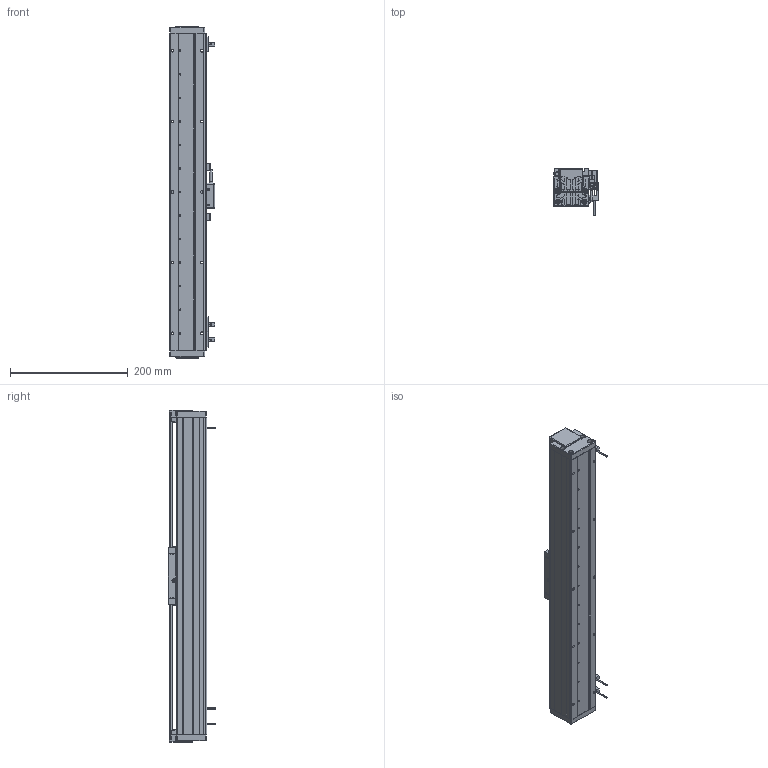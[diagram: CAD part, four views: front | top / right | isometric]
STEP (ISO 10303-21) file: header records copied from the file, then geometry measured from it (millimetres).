
FILE_DESCRIPTION (( 'STEP AP203' ), '1' );
FILE_NAME ('DA-A60-B1-T400-C010-0.2 眻盄萇儂.STEP', '2025-08-13T01:55:48', ( '' ), ( '' ), 'SwSTEP 2.0', 'SolidWorks 2019', '' );
FILE_SCHEMA (( 'CONFIG_CONTROL_DESIGN' ));
Length unit declared in the file: millimetre
Products named in the file (21): 复件 DA60-DMT-DTJ-00 读数头支架^DA-A60-B1-T-C010-0.2-N 直线电机; 复件 DA60-DG-H-N-00 端盖^DA-A60-B1-T-C010-0.2-N 直线电机; 复件 XD-U-02  磁栅尺^DA-A60-B1-T-C010-0.2-N 直线电机; DA60-T-002-00  裔啣; 葩璃 AKM01-W030-TRL^DA-A60-B1-T-C010-0.2-N 眻盄萇儂; 复件 DA60-B1-GT-00 滑块钢轨^DA60-YT-B1-HT-B-01 一体化滑动台板; DA-A60-B1-T400-C010-0.2 眻盄萇儂; AU60-V 幗紩賑怢; AU60-L 菁釱絳寢; DA60-YT-B1-HT-B-01 珨极趙賑雄怢啣; 复件 六角薄螺母 M3^DA-A60-B1-T-C010-0.2-N 直线电机(GB_FASTENER_NUT_STNAB M3-C); 复件 DA60-XJ-00 橡胶挡块^DA-A60-B1-T-C010-0.2-N 直线电机; 复件 纯铜油杯 6x6mm^AU60-V 滚珠滑台; 葩璃 PM-T45^DA-A60-B1-T-C010-0.2-N 眻盄萇儂; 复件 DA60-GT-T-00 底座钢轨^AU60-L 底座导轨; 复件 DA-A60-GYP-DMT-00 光电感应片^DA-A60-B1-T-C010-0.2-N 直线电机(默认); 葩璃 DMT-010 1米m 0.2M^DA-A60-B1-T-C010-0.2-N 眻盄萇儂; 复件 BAKM01-W030-C1-TP-0.2 直线电机动子^DA-A60-B1-T-C010-0.2-N 直线电机; IU-AU60-L-00 菁釱(540); 葩璃 DA60-HK-DP-01 結え^AU60-V 幗紩賑怢; DA60-B1-HT-B-03 賑雄怢啣
Assembly tree (33 placements, depth 4):
  DA-A60-B1-T400-C010-0.2 眻盄萇儂
    AU60-L 菁釱絳寢
      IU-AU60-L-00 菁釱(540)
      复件 DA60-GT-T-00 底座钢轨^AU60-L 底座导轨  x2
    AU60-V 幗紩賑怢
      DA60-YT-B1-HT-B-01 珨极趙賑雄怢啣
        DA60-B1-HT-B-03 賑雄怢啣
        复件 DA60-B1-GT-00 滑块钢轨^DA60-YT-B1-HT-B-01 一体化滑动台板  x2
      葩璃 DA60-HK-DP-01 結え^AU60-V 幗紩賑怢  x2
      复件 纯铜油杯 6x6mm^AU60-V 滚珠滑台
    复件 DA-A60-GYP-DMT-00 光电感应片^DA-A60-B1-T-C010-0.2-N 直线电机(默认)  x2
    复件 DA60-DMT-DTJ-00 读数头支架^DA-A60-B1-T-C010-0.2-N 直线电机
    葩璃 DMT-010 1米m 0.2M^DA-A60-B1-T-C010-0.2-N 眻盄萇儂
    复件 BAKM01-W030-C1-TP-0.2 直线电机动子^DA-A60-B1-T-C010-0.2-N 直线电机
    复件 DA60-XJ-00 橡胶挡块^DA-A60-B1-T-C010-0.2-N 直线电机  x2
    复件 DA60-DG-H-N-00 端盖^DA-A60-B1-T-C010-0.2-N 直线电机  x2
    DA60-T-002-00  裔啣
    葩璃 AKM01-W030-TRL^DA-A60-B1-T-C010-0.2-N 眻盄萇儂
    葩璃 PM-T45^DA-A60-B1-T-C010-0.2-N 眻盄萇儂  x3
    复件 XD-U-02  磁栅尺^DA-A60-B1-T-C010-0.2-N 直线电机
    复件 六角薄螺母 M3^DA-A60-B1-T-C010-0.2-N 直线电机(GB_FASTENER_NUT_STNAB M3-C)  x6
Bounding box: 76.95 x 80 x 564 mm (x, y, z)
Volume: 1209168.6 mm3; surface area: 442751.3 mm2
Topology: 35 solids, 37 shells, 2770 faces, 7020 edges, 4231 vertices
Faces by surface type: cylinder 1027, plane 909, bspline 577, cone 248, torus 8, sphere 1
Entity records: 67271 total; most frequent: CARTESIAN_POINT 21891, ORIENTED_EDGE 9296, DIRECTION 8515, EDGE_CURVE 4648, AXIS2_PLACEMENT_3D 3073, VERTEX_POINT 2902, LINE 2369, VECTOR 2369
